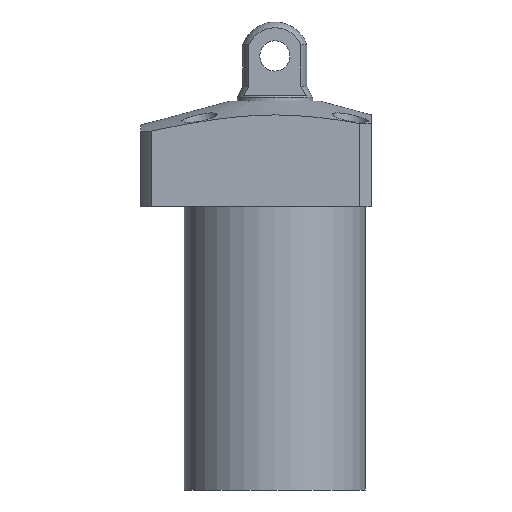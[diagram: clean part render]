
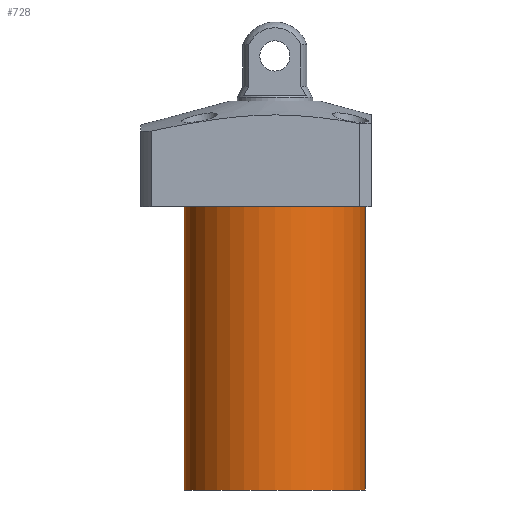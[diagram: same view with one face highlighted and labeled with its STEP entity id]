
A CAD part, front view. The second image highlights one B-rep face of the part: STEP entity #728.
In plain terms, the highlighted cylindrical face has radius 24 mm (diameter 48 mm), a partial arc.
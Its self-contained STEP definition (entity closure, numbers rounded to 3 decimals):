
#38 = CARTESIAN_POINT ( 'NONE',  ( 24., 0., -89. ) ) ;
#134 = AXIS2_PLACEMENT_3D ( 'NONE', #2239, #2270, #1310 ) ;
#154 = CARTESIAN_POINT ( 'NONE',  ( 0., 0., -14. ) ) ;
#259 = CARTESIAN_POINT ( 'NONE',  ( -24., 0., -89. ) ) ;
#315 = VERTEX_POINT ( 'NONE', #877 ) ;
#355 = DIRECTION ( 'NONE',  ( 0., 0., -1. ) ) ;
#440 = VERTEX_POINT ( 'NONE', #1043 ) ;
#665 = ORIENTED_EDGE ( 'NONE', *, *, #2281, .T. ) ;
#691 = ORIENTED_EDGE ( 'NONE', *, *, #1898, .T. ) ;
#700 = EDGE_CURVE ( 'NONE', #1687, #315, #1162, .T. ) ;
#728 = ADVANCED_FACE ( 'NONE', ( #768 ), #1604, .T. ) ;
#768 = FACE_OUTER_BOUND ( 'NONE', #1820, .T. ) ;
#778 = DIRECTION ( 'NONE',  ( 1., 0., 0. ) ) ;
#849 = ORIENTED_EDGE ( 'NONE', *, *, #700, .F. ) ;
#867 = DIRECTION ( 'NONE',  ( 1., 0., 0. ) ) ;
#877 = CARTESIAN_POINT ( 'NONE',  ( -24., 0., -89. ) ) ;
#957 = VECTOR ( 'NONE', #2088, 1000. ) ;
#974 = VERTEX_POINT ( 'NONE', #1707 ) ;
#1022 = CARTESIAN_POINT ( 'NONE',  ( 24., 0., -89. ) ) ;
#1043 = CARTESIAN_POINT ( 'NONE',  ( -24., 0., -14. ) ) ;
#1143 = DIRECTION ( 'NONE',  ( 0., 0., 1. ) ) ;
#1162 = CIRCLE ( 'NONE', #134, 24. ) ;
#1310 = DIRECTION ( 'NONE',  ( -1., 0., 0. ) ) ;
#1332 = VECTOR ( 'NONE', #1582, 1000. ) ;
#1431 = AXIS2_PLACEMENT_3D ( 'NONE', #154, #355, #867 ) ;
#1582 = DIRECTION ( 'NONE',  ( 0., 0., 1. ) ) ;
#1604 = CYLINDRICAL_SURFACE ( 'NONE', #2142, 24. ) ;
#1619 = ORIENTED_EDGE ( 'NONE', *, *, #1757, .F. ) ;
#1687 = VERTEX_POINT ( 'NONE', #38 ) ;
#1707 = CARTESIAN_POINT ( 'NONE',  ( 24., 0., -14. ) ) ;
#1757 = EDGE_CURVE ( 'NONE', #315, #440, #2260, .T. ) ;
#1760 = CIRCLE ( 'NONE', #1431, 24. ) ;
#1820 = EDGE_LOOP ( 'NONE', ( #1619, #849, #691, #665 ) ) ;
#1842 = LINE ( 'NONE', #1022, #1332 ) ;
#1882 = CARTESIAN_POINT ( 'NONE',  ( 0., 0., -89. ) ) ;
#1898 = EDGE_CURVE ( 'NONE', #1687, #974, #1842, .T. ) ;
#2088 = DIRECTION ( 'NONE',  ( 0., 0., 1. ) ) ;
#2142 = AXIS2_PLACEMENT_3D ( 'NONE', #1882, #1143, #778 ) ;
#2239 = CARTESIAN_POINT ( 'NONE',  ( 0., 0., -89. ) ) ;
#2260 = LINE ( 'NONE', #259, #957 ) ;
#2270 = DIRECTION ( 'NONE',  ( 0., 0., -1. ) ) ;
#2281 = EDGE_CURVE ( 'NONE', #974, #440, #1760, .T. ) ;
